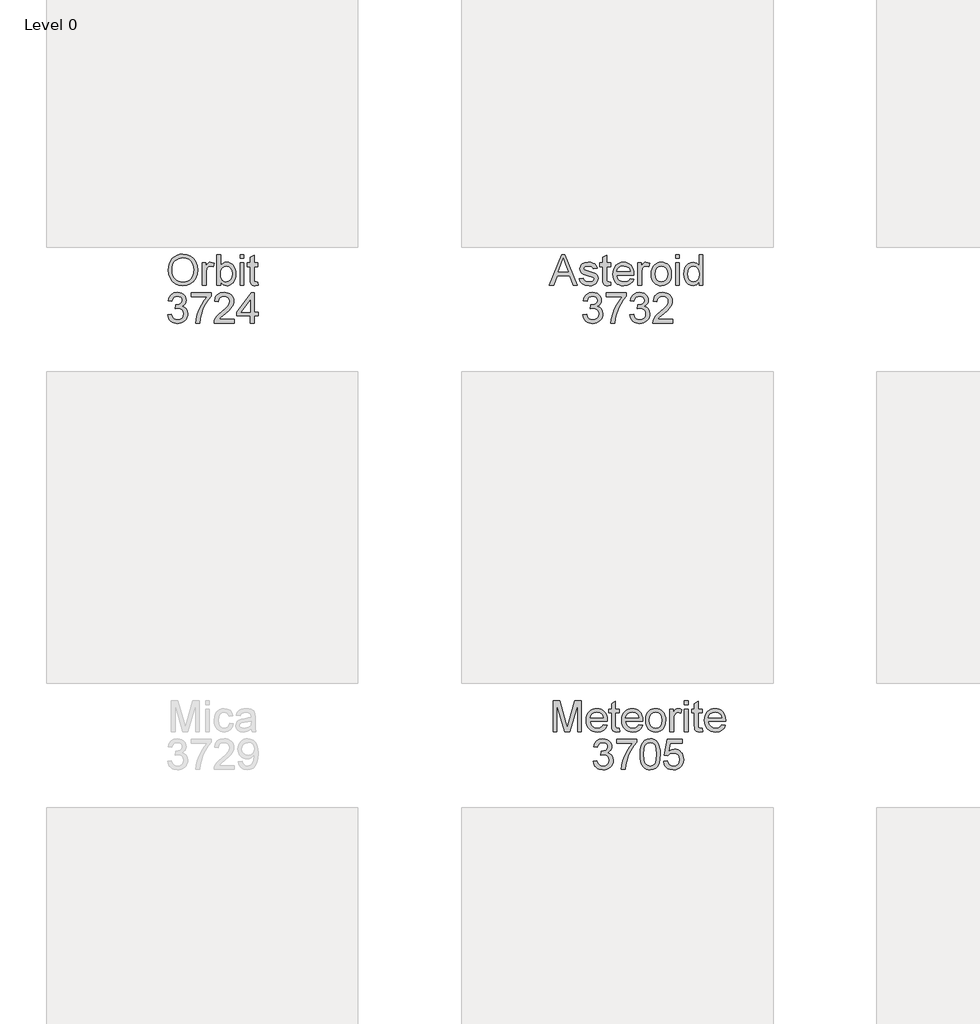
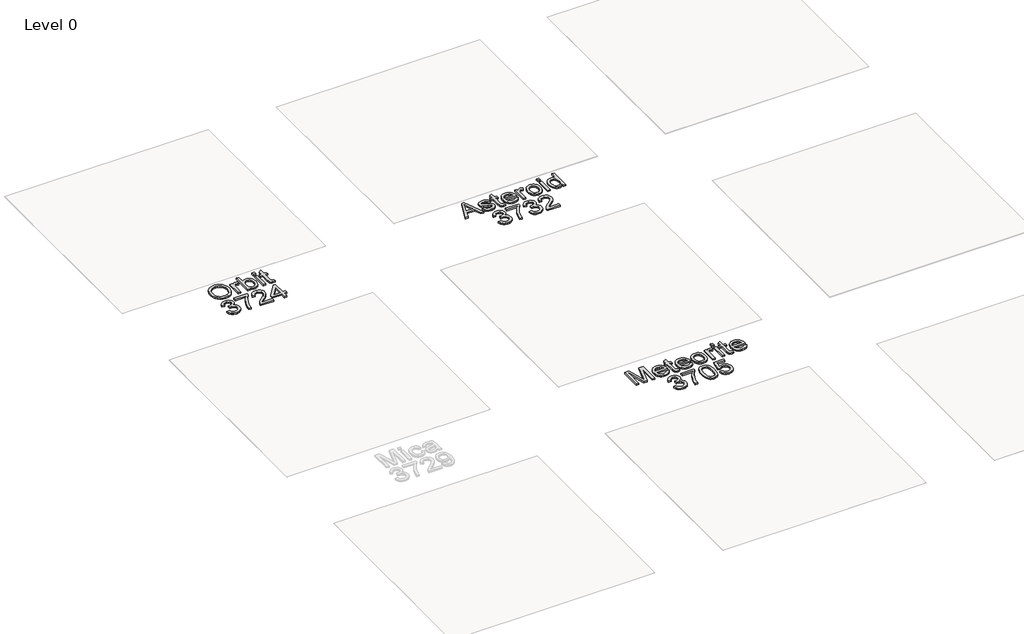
# One storey, part 8 of 14: 3 proxies.
"""IFC4 building model written with IfcOpenShell, lengths in millimetres."""

from ifc_helpers import new_model, si_unit, origin, origin_with_axes, place, context, project, spatial, polyline, outline, extrude, element, save

model = new_model("IFC4")

# Units and contexts
model_context = context("Model", 3, world=origin())
ifc_project = project(units=[si_unit("LENGTHUNIT", "METRE", prefix="MILLI")], contexts=[model_context])

# Site, building, storey
site = spatial("IfcSite", under=ifc_project)
building = spatial("IfcBuilding", under=site)
storey = spatial("IfcBuildingStorey", under=building, Name="Level 0", Elevation=0.0)

# Proxies
placement = place(None, origin())
element("IfcBuildingElementProxy", 1, Name="300mm Arial", ObjectType="300mm Arial", at=placement, inside=storey, context=model_context, shape_type="SweptSolid", body=[
    extrude(outline(polyline([(-279.2675725, -10593.3749409), (-276.806635, -10558.7280058), (-269.4238225, -10528.0564313), (-257.119135, -10501.3602174), (-239.8925725, -10478.639364), (-218.7762864, -10460.4978376), (-194.8024283, -10447.5396044), (-167.970998, -10439.7646645), (-138.2819956, -10437.1730179), (-99.5380052, -10442.0408063), (-64.7964187, -10456.6441717), (-35.9502648, -10479.9554698), (-14.8925725, -10510.9470563), (-2.0199764, -10548.1225371), (2.270889, -10589.9855179), (-2.2453369, -10632.4073929), (-15.7940148, -10670.1057102), (-37.6269475, -10701.1513832), (-66.9959379, -10723.6153255), (-101.4400485, -10737.2451332), (-138.4983417, -10741.7884025), (-177.837284, -10736.7673688), (-212.7771879, -10721.7042679), (-241.5512264, -10697.9602775), (-262.3925725, -10666.8965755), (-275.0488225, -10631.154388), (-279.2675725, -10593.3749409)]), holes=[polyline([(-242.3444956, -10593.7355179), (-240.4987925, -10618.2141837), (-234.9616831, -10639.9434505), (-225.7331675, -10658.9233183), (-212.8132456, -10675.1537871), (-197.107867, -10688.1525852), (-179.5229812, -10697.4374409), (-160.0585881, -10703.0083544), (-138.7146879, -10704.8653255), (-117.0057035, -10702.9903255), (-97.3114427, -10697.3653255), (-79.6319054, -10687.9903255), (-63.9670917, -10674.8653255), (-51.1418213, -10658.2923087), (-41.9809139, -10638.5732582), (-36.4843694, -10615.7081741), (-34.6521879, -10589.6970563), (-37.7892071, -10557.0107582), (-47.2002648, -10528.7595563), (-62.6419715, -10505.65559), (-83.8709379, -10488.4109986), (-109.4809139, -10477.6748207), (-138.0656494, -10474.0960948), (-158.6681134, -10475.8201032), (-177.7831975, -10480.9921284), (-195.4109018, -10489.6121705), (-211.5512264, -10501.6802294), (-225.0232816, -10517.7777354), (-234.6461783, -10538.4861188), (-240.4199163, -10563.8053796), (-242.3444956, -10593.7355179)])]), origin_with_axes(), (0.0, 0.0, 1.0), 20.0),
    extrude(outline(polyline([(48.4247352, -10737.1730179), (48.4247352, -10520.2499409), (80.7324275, -10520.2499409), (80.7324275, -10552.3412871), (92.6675236, -10533.7355179), (103.6651198, -10522.7739794), (114.6987736, -10517.4194121), (126.7420429, -10515.6345563), (145.131466, -10518.483114), (163.8093506, -10527.0287871), (151.4776198, -10560.1297486), (138.4968506, -10554.4506621), (125.5160813, -10552.5576332), (114.4914419, -10554.3785467), (104.6386775, -10559.8412871), (96.6789419, -10568.5311909), (91.333389, -10580.0335948), (86.8442063, -10600.6585948), (85.3478121, -10623.1585948), (85.3478121, -10737.1730179), (48.4247352, -10737.1730179)])), origin_with_axes(), (0.0, 0.0, 1.0), 20.0),
    extrude(outline(polyline([(223.8093506, -10737.1730179), (186.8862736, -10737.1730179), (186.8862736, -10441.7884025), (223.8093506, -10441.7884025), (223.8093506, -10551.3316717), (235.9517785, -10535.7141837), (249.662716, -10524.5588352), (264.9421631, -10517.865626), (281.7901198, -10515.6345563), (300.8105525, -10517.6447727), (318.7853121, -10523.6754217), (334.6867544, -10533.3478977), (347.4872352, -10546.2835948), (357.5202881, -10562.3563111), (365.1194467, -10581.4398448), (369.9061054, -10602.7409265), (371.5016583, -10625.4662871), (369.8497652, -10651.6892438), (364.8940861, -10674.7571525), (356.634621, -10694.670013), (345.0713698, -10711.4278255), (331.1914119, -10724.7105779), (315.9818265, -10734.1982582), (299.4426138, -10739.8908664), (281.5737736, -10741.7884025), (264.1714299, -10739.3409866), (248.7432448, -10731.998739), (235.2892184, -10719.7616597), (223.8093506, -10702.6297486), (223.8093506, -10737.1730179)]), holes=[polyline([(223.8093506, -10627.1970563), (226.333389, -10657.9903255), (233.9055044, -10678.8316717), (242.8523193, -10690.2213953), (253.2504563, -10698.3569121), (265.0999155, -10703.2382222), (278.4006967, -10704.8653255), (299.7107929, -10700.0696525), (317.9199275, -10685.6826332), (330.4139179, -10661.7944121), (334.5785813, -10628.4951332), (330.5851919, -10594.7090755), (318.6050236, -10571.0912871), (300.9637977, -10557.1910467), (279.9872352, -10552.5576332), (258.677139, -10557.3533063), (240.4680044, -10571.7403255), (227.974014, -10595.1958544), (223.8093506, -10627.1970563)])]), origin_with_axes(), (0.0, 0.0, 1.0), 20.0),
    extrude(outline(polyline([(413.0401198, -10478.7114794), (413.0401198, -10441.7884025), (449.9631967, -10441.7884025), (449.9631967, -10478.7114794), (413.0401198, -10478.7114794)])), origin_with_axes(), (0.0, 0.0, 1.0), 20.0),
    extrude(outline(polyline([(413.0401198, -10737.1730179), (413.0401198, -10520.2499409), (449.9631967, -10520.2499409), (449.9631967, -10737.1730179), (413.0401198, -10737.1730179)])), origin_with_axes(), (0.0, 0.0, 1.0), 20.0),
    extrude(outline(polyline([(583.8093506, -10706.3797486), (588.4247352, -10738.2547486), (560.8045429, -10741.7884025), (543.0821871, -10740.2559505), (529.8670429, -10735.6585948), (520.5281006, -10728.5732582), (514.4343506, -10719.576864), (511.0809852, -10704.1261429), (509.9631967, -10677.6778255), (509.9631967, -10557.1730179), (482.270889, -10557.1730179), (482.270889, -10520.2499409), (509.9631967, -10520.2499409), (509.9631967, -10467.5335948), (546.8862736, -10445.826864), (546.8862736, -10520.2499409), (583.8093506, -10520.2499409), (583.8093506, -10557.1730179), (546.8862736, -10557.1730179), (546.8862736, -10676.5960948), (548.833389, -10695.6345563), (555.1434852, -10702.3773448), (567.7276198, -10704.8653255), (583.8093506, -10706.3797486)])), origin_with_axes(), (0.0, 0.0, 1.0), 20.0),
    extrude(outline(polyline([(-286.1906494, -11023.326864), (-249.2675725, -11018.7114794), (-241.0013465, -11041.9146044), (-228.8949764, -11057.5816717), (-212.35351, -11066.5059505), (-190.7819956, -11069.4807102), (-165.4694956, -11065.3881621), (-145.9262264, -11053.1105179), (-133.432236, -11034.7932102), (-129.2675725, -11012.5816717), (-133.3961783, -10991.4969361), (-145.7819956, -10974.3965755), (-164.5319956, -10963.0654457), (-187.7531494, -10959.2884025), (-213.6425725, -10963.326864), (-209.5319956, -10926.4037871), (-203.618534, -10926.8364794), (-181.4971398, -10924.186239), (-161.7194956, -10916.2355179), (-147.7651687, -10902.7859986), (-143.1137264, -10883.639364), (-146.4851206, -10867.6928496), (-156.5993033, -10854.7571525), (-172.0319956, -10846.1844361), (-191.3589187, -10843.326864), (-210.7218994, -10846.2114794), (-226.5512264, -10854.8653255), (-238.1077167, -10869.2884025), (-244.6521879, -10889.4807102), (-281.5752648, -10884.8653255), (-270.7038706, -10851.7102775), (-251.3589187, -10826.9566717), (-224.8925725, -10811.5420082), (-192.6569956, -10806.4037871), (-169.4448562, -10808.93684), (-148.1257456, -10816.5359986), (-130.150986, -10828.5251813), (-116.9718994, -10844.2283063), (-108.8859619, -10862.3202534), (-106.1906494, -10881.4759025), (-108.7507456, -10899.3244602), (-116.431034, -10915.514364), (-129.1233417, -10929.3064313), (-146.7194956, -10939.9614794), (-123.6065148, -10949.3004217), (-106.479111, -10965.201864), (-95.8781494, -10986.8004217), (-92.3444956, -11013.2307102), (-94.1113225, -11031.9626813), (-99.4118033, -11049.2162871), (-108.2459379, -11064.9915275), (-120.6137264, -11079.2884025), (-135.6813345, -11091.1513832), (-152.6149283, -11099.6249409), (-171.4145076, -11104.7090755), (-192.0800725, -11106.4037871), (-227.7771879, -11100.6165275), (-243.1377648, -11093.3824529), (-256.8396879, -11083.2547486), (-268.3285701, -11070.8283664), (-277.0500244, -11056.6982582), (-286.1906494, -11023.326864)])), origin_with_axes(), (0.0, 0.0, 1.0), 20.0),
    extrude(outline(polyline([(-60.0368033, -10847.9422486), (-60.0368033, -10811.0191717), (133.8093506, -10811.0191717), (133.8093506, -10840.8749409), (106.1801438, -10875.841888), (78.8213698, -10920.3100371), (54.6897592, -10970.2228977), (36.7420429, -11021.5239794), (27.943966, -11059.9073929), (23.0401198, -11101.7884025), (-13.8829571, -11101.7884025), (-9.8895677, -11063.7295082), (0.7925236, -11018.4951332), (17.8748554, -10970.5474169), (41.068966, -10924.3484986), (68.1482929, -10882.5846765), (96.8862736, -10847.9422486), (-60.0368033, -10847.9422486)])), origin_with_axes(), (0.0, 0.0, 1.0), 20.0),
    extrude(outline(polyline([(355.3478121, -11064.8653255), (355.3478121, -11101.7884025), (161.5016583, -11101.7884025), (165.4680044, -11076.3316717), (174.5725717, -11056.43684), (187.895889, -11037.1369602), (207.1687256, -11016.935638), (234.1218506, -10994.3364794), (273.9656006, -10958.9458544), (297.8718506, -10932.8220563), (309.8249756, -10911.6201332), (313.8093506, -10890.9951332), (310.0503361, -10872.5065515), (298.7732929, -10857.1369602), (281.4385573, -10846.779388), (259.506466, -10843.326864), (236.474615, -10846.6982582), (218.5809852, -10856.8124409), (207.0335092, -10872.8761429), (203.0401198, -10894.0960948), (166.1170429, -10889.4807102), (175.068365, -10853.7655659), (183.4450176, -10839.5182703), (194.4223313, -10827.6778255), (207.7479023, -10818.3704337), (223.1693265, -10811.7222967), (260.2997352, -10806.4037871), (280.0886474, -10807.8821525), (297.7005765, -10812.3172486), (313.1355224, -10819.7090755), (326.3934852, -10830.0576332), (337.0417724, -10842.5966957), (344.6476919, -10856.5600371), (349.2112436, -10871.9476573), (350.7324275, -10888.7595563), (349.0918025, -10906.4188111), (344.1699275, -10923.7715755), (335.4349515, -10941.4218159), (322.3550236, -10959.9734986), (301.5046631, -10982.1219361), (269.458389, -11010.5624409), (226.9824275, -11046.0792679), (210.3237736, -11064.8653255), (355.3478121, -11064.8653255)])), origin_with_axes(), (0.0, 0.0, 1.0), 20.0),
    extrude(outline(polyline([(512.270889, -11101.7884025), (512.270889, -11032.5576332), (378.4247352, -11032.5576332), (378.4247352, -10995.6345563), (521.5016583, -10811.0191717), (549.193966, -10811.0191717), (549.193966, -10995.6345563), (586.1170429, -10995.6345563), (586.1170429, -11032.5576332), (549.193966, -11032.5576332), (549.193966, -11101.7884025), (512.270889, -11101.7884025)]), holes=[polyline([(512.270889, -10995.6345563), (512.270889, -10881.5480179), (423.8574275, -10995.6345563), (512.270889, -10995.6345563)])]), origin_with_axes(), (0.0, 0.0, 1.0), 20.0),
])
element("IfcBuildingElementProxy", 2, Name="300mm Arial", ObjectType="300mm Arial", at=placement, inside=storey, context=model_context, shape_type="SweptSolid", body=[
    extrude(outline(polyline([(3393.256466, -10737.1730179), (3511.1651198, -10441.7884025), (3542.6074275, -10441.7884025), (3660.5160813, -10737.1730179), (3621.5016583, -10737.1730179), (3587.6795429, -10644.8653255), (3466.020889, -10644.8653255), (3432.270889, -10737.1730179), (3393.256466, -10737.1730179)]), holes=[polyline([(3479.5785813, -10607.9422486), (3574.193966, -10607.9422486), (3547.583389, -10535.3220563), (3526.8862736, -10478.7114794), (3508.4968506, -10528.9759025), (3479.5785813, -10607.9422486)])]), origin_with_axes(), (0.0, 0.0, 1.0), 20.0),
    extrude(outline(polyline([(3681.5016583, -10672.5576332), (3718.4247352, -10667.9422486), (3724.2480525, -10683.7355179), (3735.5160813, -10695.3460948), (3752.3009371, -10702.4855179), (3774.6747352, -10704.8653255), (3796.7781006, -10702.6838352), (3812.318966, -10696.139364), (3821.5136775, -10686.6561909), (3824.5785813, -10675.6585948), (3821.4956486, -10666.2475371), (3812.2468506, -10659.0720563), (3774.2420429, -10648.5432102), (3718.6410813, -10630.4783063), (3704.5695669, -10621.4007823), (3694.3742544, -10609.3845563), (3688.1813458, -10595.1958544), (3686.1170429, -10579.6009025), (3687.7756967, -10565.295013), (3692.7516583, -10552.0888832), (3700.5942063, -10540.5053496), (3710.8526198, -10531.0672486), (3734.3261775, -10520.1417679), (3766.0930044, -10515.6345563), (3790.1254563, -10517.4464554), (3811.020889, -10522.8821525), (3827.8237736, -10531.4097967), (3839.5785813, -10542.4975371), (3847.3670429, -10556.9656861), (3852.270889, -10575.6345563), (3815.3478121, -10580.2499409), (3810.6873554, -10568.6303496), (3801.4656006, -10559.8773448), (3787.5924035, -10554.3875611), (3768.9776198, -10552.5576332), (3747.7756967, -10554.3064313), (3733.6410813, -10559.5528255), (3725.6903602, -10567.1249409), (3723.0401198, -10575.8509025), (3727.4391583, -10586.5960948), (3741.2131967, -10594.7451332), (3773.0160813, -10602.6057102), (3827.2107929, -10619.9855179), (3841.5256967, -10628.2968159), (3852.3790621, -10639.6730179), (3859.2210092, -10654.1501813), (3861.5016583, -10671.764364), (3858.8243746, -10689.9734986), (3850.7925236, -10707.1009025), (3837.7125958, -10721.8034265), (3819.8910813, -10732.7379217), (3798.364639, -10739.5257823), (3774.1699275, -10741.7884025), (3736.9403602, -10737.4254217), (3709.770889, -10724.3364794), (3691.6338698, -10702.6658063), (3681.5016583, -10672.5576332)])), origin_with_axes(), (0.0, 0.0, 1.0), 20.0),
    extrude(outline(polyline([(3981.5016583, -10706.3797486), (3986.1170429, -10738.2547486), (3958.4968506, -10741.7884025), (3940.7744948, -10740.2559505), (3927.5593506, -10735.6585948), (3918.2204083, -10728.5732582), (3912.1266583, -10719.576864), (3908.7732929, -10704.1261429), (3907.6555044, -10677.6778255), (3907.6555044, -10557.1730179), (3879.9631967, -10557.1730179), (3879.9631967, -10520.2499409), (3907.6555044, -10520.2499409), (3907.6555044, -10467.5335948), (3944.5785813, -10445.826864), (3944.5785813, -10520.2499409), (3981.5016583, -10520.2499409), (3981.5016583, -10557.1730179), (3944.5785813, -10557.1730179), (3944.5785813, -10676.5960948), (3946.5256967, -10695.6345563), (3952.8357929, -10702.3773448), (3965.4199275, -10704.8653255), (3981.5016583, -10706.3797486)])), origin_with_axes(), (0.0, 0.0, 1.0), 20.0),
    extrude(outline(polyline([(4170.2997352, -10672.5576332), (4206.5016583, -10677.1730179), (4193.4577881, -10704.4506621), (4172.6434852, -10724.8412871), (4144.5274996, -10737.5516236), (4109.5785813, -10741.7884025), (4086.6684251, -10739.9607282), (4066.255264, -10734.4777054), (4048.3390982, -10725.339334), (4032.9199275, -10712.545614), (4020.5205886, -10696.4526152), (4011.6639179, -10677.4164073), (4006.3499155, -10655.4369902), (4004.5785813, -10630.514364), (4006.3679443, -10604.7466356), (4011.7360333, -10582.0347967), (4020.6828482, -10562.3788472), (4033.208389, -10545.7787871), (4048.5869948, -10532.5906861), (4066.0930044, -10523.170614), (4085.7264179, -10517.5185707), (4107.4872352, -10515.6345563), (4128.5471811, -10517.5140635), (4147.5924035, -10523.1525852), (4164.6229023, -10532.5501212), (4179.6386775, -10545.7066717), (4191.8960393, -10562.2706741), (4200.6512977, -10581.8905659), (4205.9044527, -10604.5663472), (4207.6555044, -10630.2980179), (4207.4391583, -10640.2499409), (4041.5016583, -10640.2499409), (4047.8928842, -10667.8881621), (4062.739639, -10688.2066717), (4084.1669227, -10700.7006621), (4110.2997352, -10704.8653255), (4129.9511775, -10702.936239), (4146.5016583, -10697.1489794), (4159.9511775, -10687.1429698), (4170.2997352, -10672.5576332)]), holes=[polyline([(4041.5016583, -10603.326864), (4170.7324275, -10603.326864), (4165.7384371, -10583.8196525), (4155.9487736, -10569.8653255), (4134.4223313, -10556.8845563), (4107.3430044, -10552.5576332), (4082.4541823, -10556.0101573), (4061.8742544, -10566.3677294), (4047.568365, -10582.5125611), (4041.5016583, -10603.326864)])]), origin_with_axes(), (0.0, 0.0, 1.0), 20.0),
    extrude(outline(polyline([(4244.5785813, -10737.1730179), (4244.5785813, -10520.2499409), (4276.8862736, -10520.2499409), (4276.8862736, -10552.3412871), (4288.8213698, -10533.7355179), (4299.818966, -10522.7739794), (4310.8526198, -10517.4194121), (4322.895889, -10515.6345563), (4341.2853121, -10518.483114), (4359.9631967, -10527.0287871), (4347.631466, -10560.1297486), (4334.6506967, -10554.4506621), (4321.6699275, -10552.5576332), (4310.6452881, -10554.3785467), (4300.7925236, -10559.8412871), (4292.8327881, -10568.5311909), (4287.4872352, -10580.0335948), (4282.9980525, -10600.6585948), (4281.5016583, -10623.1585948), (4281.5016583, -10737.1730179), (4244.5785813, -10737.1730179)])), origin_with_axes(), (0.0, 0.0, 1.0), 20.0),
    extrude(outline(polyline([(4373.8093506, -10628.7114794), (4375.8060453, -10600.6180299), (4381.7961294, -10576.4097967), (4391.779603, -10556.0867799), (4405.756466, -10539.6489794), (4419.8279804, -10529.1426693), (4435.3598313, -10521.6381621), (4452.3520188, -10517.1354578), (4470.8045429, -10515.6345563), (4491.1748854, -10517.4622306), (4509.5936054, -10522.9452534), (4526.0607027, -10532.0836248), (4540.5761775, -10544.8773448), (4552.423383, -10560.893721), (4560.8856727, -10579.7000611), (4565.9630465, -10601.2963652), (4567.6555044, -10625.6826332), (4564.662716, -10662.9843159), (4555.6843506, -10691.3797486), (4540.9818265, -10712.6447727), (4520.8165621, -10728.5552294), (4496.86524, -10738.4801092), (4470.8045429, -10741.7884025), (4450.1367244, -10739.967489), (4431.5467304, -10734.5047486), (4415.0345609, -10725.4001813), (4400.600216, -10712.6537871), (4388.8792123, -10696.4819121), (4380.5070669, -10677.1009025), (4375.4837797, -10654.5107582), (4373.8093506, -10628.7114794)]), holes=[polyline([(4410.7324275, -10628.639364), (4415.005264, -10662.0558304), (4427.8237736, -10685.8629217), (4447.114639, -10700.1147246), (4470.8045429, -10704.8653255), (4494.3862736, -10700.0876813), (4513.6410813, -10685.7547486), (4526.459591, -10661.6321525), (4530.7324275, -10627.4855179), (4526.4325477, -10595.0426092), (4513.5329083, -10571.5600371), (4494.2510573, -10557.3082342), (4470.8045429, -10552.5576332), (4447.114639, -10557.2902054), (4427.8237736, -10571.4879217), (4415.005264, -10595.2409265), (4410.7324275, -10628.639364)])]), origin_with_axes(), (0.0, 0.0, 1.0), 20.0),
    extrude(outline(polyline([(4609.193966, -10737.1730179), (4609.193966, -10520.2499409), (4646.1170429, -10520.2499409), (4646.1170429, -10737.1730179), (4609.193966, -10737.1730179)])), origin_with_axes(), (0.0, 0.0, 1.0), 20.0),
    extrude(outline(polyline([(4609.193966, -10478.7114794), (4609.193966, -10441.7884025), (4646.1170429, -10441.7884025), (4646.1170429, -10478.7114794), (4609.193966, -10478.7114794)])), origin_with_axes(), (0.0, 0.0, 1.0), 20.0),
    extrude(outline(polyline([(4835.3478121, -10737.1730179), (4835.3478121, -10702.3412871), (4824.3006366, -10719.5994001), (4810.9187256, -10731.9266236), (4795.2020789, -10739.3229578), (4777.1506967, -10741.7884025), (4753.2805044, -10738.2186909), (4731.4295429, -10727.5095563), (4712.9319467, -10710.4091957), (4699.1218506, -10687.6658063), (4690.522091, -10660.1988592), (4687.6555044, -10628.9278255), (4690.2967304, -10598.0444121), (4698.2204083, -10570.1537871), (4711.4175236, -10546.842489), (4729.8790621, -10529.6970563), (4752.2077881, -10519.1501813), (4777.006466, -10515.6345563), (4795.0713698, -10518.1495804), (4811.0449275, -10525.6946525), (4824.584591, -10537.2601573), (4835.3478121, -10551.8364794), (4835.3478121, -10441.7884025), (4872.270889, -10441.7884025), (4872.270889, -10737.1730179), (4835.3478121, -10737.1730179)]), holes=[polyline([(4724.5785813, -10628.7835948), (4728.7432448, -10662.1820323), (4741.2372352, -10685.9350371), (4759.3922833, -10700.1327534), (4780.5401198, -10704.8653255), (4801.6789419, -10700.3490996), (4819.3742544, -10686.8004217), (4831.3544227, -10663.966888), (4835.3478121, -10631.5960948), (4831.2823073, -10596.2054698), (4819.0857929, -10571.6682102), (4800.9397592, -10557.3352775), (4779.0256967, -10552.5576332), (4757.661514, -10557.1459746), (4740.1555044, -10570.9109986), (4728.4728121, -10594.5558304), (4724.5785813, -10628.7835948)])]), origin_with_axes(), (0.0, 0.0, 1.0), 20.0),
    extrude(outline(polyline([(3713.8093506, -11023.326864), (3750.7324275, -11018.7114794), (3758.9986535, -11041.9146044), (3771.1050236, -11057.5816717), (3787.64649, -11066.5059505), (3809.2180044, -11069.4807102), (3834.5305044, -11065.3881621), (3854.0737736, -11053.1105179), (3866.567764, -11034.7932102), (3870.7324275, -11012.5816717), (3866.6038217, -10991.4969361), (3854.2180044, -10974.3965755), (3835.4680044, -10963.0654457), (3812.2468506, -10959.2884025), (3786.3574275, -10963.326864), (3790.4680044, -10926.4037871), (3796.381466, -10926.8364794), (3818.5028602, -10924.186239), (3838.2805044, -10916.2355179), (3852.2348313, -10902.7859986), (3856.8862736, -10883.639364), (3853.5148794, -10867.6928496), (3843.4006967, -10854.7571525), (3827.9680044, -10846.1844361), (3808.6410813, -10843.326864), (3789.2781006, -10846.2114794), (3773.4487736, -10854.8653255), (3761.8922833, -10869.2884025), (3755.3478121, -10889.4807102), (3718.4247352, -10884.8653255), (3729.2961294, -10851.7102775), (3748.6410813, -10826.9566717), (3775.1074275, -10811.5420082), (3807.3430044, -10806.4037871), (3830.5551438, -10808.93684), (3851.8742544, -10816.5359986), (3869.849014, -10828.5251813), (3883.0281006, -10844.2283063), (3891.1140381, -10862.3202534), (3893.8093506, -10881.4759025), (3891.2492544, -10899.3244602), (3883.568966, -10915.514364), (3870.8766583, -10929.3064313), (3853.2805044, -10939.9614794), (3876.3934852, -10949.3004217), (3893.520889, -10965.201864), (3904.1218506, -10986.8004217), (3907.6555044, -11013.2307102), (3905.8886775, -11031.9626813), (3900.5881967, -11049.2162871), (3891.7540621, -11064.9915275), (3879.3862736, -11079.2884025), (3864.3186655, -11091.1513832), (3847.3850717, -11099.6249409), (3828.5854924, -11104.7090755), (3807.9199275, -11106.4037871), (3772.2228121, -11100.6165275), (3756.8622352, -11093.3824529), (3743.1603121, -11083.2547486), (3731.6714299, -11070.8283664), (3722.9499756, -11056.6982582), (3713.8093506, -11023.326864)])), origin_with_axes(), (0.0, 0.0, 1.0), 20.0),
    extrude(outline(polyline([(3939.9631967, -10847.9422486), (3939.9631967, -10811.0191717), (4133.8093506, -10811.0191717), (4133.8093506, -10840.8749409), (4106.1801438, -10875.841888), (4078.8213698, -10920.3100371), (4054.6897592, -10970.2228977), (4036.7420429, -11021.5239794), (4027.943966, -11059.9073929), (4023.0401198, -11101.7884025), (3986.1170429, -11101.7884025), (3990.1104323, -11063.7295082), (4000.7925236, -11018.4951332), (4017.8748554, -10970.5474169), (4041.068966, -10924.3484986), (4068.1482929, -10882.5846765), (4096.8862736, -10847.9422486), (3939.9631967, -10847.9422486)])), origin_with_axes(), (0.0, 0.0, 1.0), 20.0),
    extrude(outline(polyline([(4166.1170429, -11023.326864), (4203.0401198, -11018.7114794), (4211.3063458, -11041.9146044), (4223.412716, -11057.5816717), (4239.9541823, -11066.5059505), (4261.5256967, -11069.4807102), (4286.8381967, -11065.3881621), (4306.381466, -11053.1105179), (4318.8754563, -11034.7932102), (4323.0401198, -11012.5816717), (4318.911514, -10991.4969361), (4306.5256967, -10974.3965755), (4287.7756967, -10963.0654457), (4264.5545429, -10959.2884025), (4238.6651198, -10963.326864), (4242.7756967, -10926.4037871), (4248.6891583, -10926.8364794), (4270.8105525, -10924.186239), (4290.5881967, -10916.2355179), (4304.5425236, -10902.7859986), (4309.193966, -10883.639364), (4305.8225717, -10867.6928496), (4295.708389, -10854.7571525), (4280.2756967, -10846.1844361), (4260.9487736, -10843.326864), (4241.5857929, -10846.2114794), (4225.756466, -10854.8653255), (4214.1999756, -10869.2884025), (4207.6555044, -10889.4807102), (4170.7324275, -10884.8653255), (4181.6038217, -10851.7102775), (4200.9487736, -10826.9566717), (4227.4151198, -10811.5420082), (4259.6506967, -10806.4037871), (4282.8628361, -10808.93684), (4304.1819467, -10816.5359986), (4322.1567063, -10828.5251813), (4335.3357929, -10844.2283063), (4343.4217304, -10862.3202534), (4346.1170429, -10881.4759025), (4343.5569467, -10899.3244602), (4335.8766583, -10915.514364), (4323.1843506, -10929.3064313), (4305.5881967, -10939.9614794), (4328.7011775, -10949.3004217), (4345.8285813, -10965.201864), (4356.4295429, -10986.8004217), (4359.9631967, -11013.2307102), (4358.1963698, -11031.9626813), (4352.895889, -11049.2162871), (4344.0617544, -11064.9915275), (4331.693966, -11079.2884025), (4316.6263578, -11091.1513832), (4299.692764, -11099.6249409), (4280.8931847, -11104.7090755), (4260.2276198, -11106.4037871), (4224.5305044, -11100.6165275), (4209.1699275, -11093.3824529), (4195.4680044, -11083.2547486), (4183.9791222, -11070.8283664), (4175.2576679, -11056.6982582), (4166.1170429, -11023.326864)])), origin_with_axes(), (0.0, 0.0, 1.0), 20.0),
    extrude(outline(polyline([(4581.5016583, -11064.8653255), (4581.5016583, -11101.7884025), (4387.6555044, -11101.7884025), (4391.6218506, -11076.3316717), (4400.7264179, -11056.43684), (4414.0497352, -11037.1369602), (4433.3225717, -11016.935638), (4460.2756967, -10994.3364794), (4500.1194467, -10958.9458544), (4524.0256967, -10932.8220563), (4535.9788217, -10911.6201332), (4539.9631967, -10890.9951332), (4536.2041823, -10872.5065515), (4524.927139, -10857.1369602), (4507.5924035, -10846.779388), (4485.6603121, -10843.326864), (4462.6284611, -10846.6982582), (4444.7348313, -10856.8124409), (4433.1873554, -10872.8761429), (4429.193966, -10894.0960948), (4392.270889, -10889.4807102), (4401.2222111, -10853.7655659), (4409.5988638, -10839.5182703), (4420.5761775, -10827.6778255), (4433.9017484, -10818.3704337), (4449.3231727, -10811.7222967), (4486.4535813, -10806.4037871), (4506.2424936, -10807.8821525), (4523.8544227, -10812.3172486), (4539.2893686, -10819.7090755), (4552.5473313, -10830.0576332), (4563.1956186, -10842.5966957), (4570.8015381, -10856.5600371), (4575.3650898, -10871.9476573), (4576.8862736, -10888.7595563), (4575.2456486, -10906.4188111), (4570.3237736, -10923.7715755), (4561.5887977, -10941.4218159), (4548.5088698, -10959.9734986), (4527.6585092, -10982.1219361), (4495.6122352, -11010.5624409), (4453.1362736, -11046.0792679), (4436.4776198, -11064.8653255), (4581.5016583, -11064.8653255)])), origin_with_axes(), (0.0, 0.0, 1.0), 20.0),
])
element("IfcBuildingElementProxy", 3, Name="300mm Arial", ObjectType="300mm Arial", at=placement, inside=storey, context=model_context, shape_type="SweptSolid", body=[
    extrude(outline(polyline([(3428.4247352, -15037.1730179), (3428.4247352, -14741.7884025), (3491.958389, -14741.7884025), (3552.3910813, -14949.9855179), (3564.5785813, -14993.4710948), (3577.7756967, -14946.3797486), (3637.1987736, -14741.7884025), (3700.7324275, -14741.7884025), (3700.7324275, -15037.1730179), (3663.8093506, -15037.1730179), (3663.8093506, -14778.7114794), (3589.6026198, -15037.1730179), (3539.5545429, -15037.1730179), (3465.3478121, -14778.7114794), (3465.3478121, -15037.1730179), (3428.4247352, -15037.1730179)])), origin_with_axes(), (0.0, 0.0, 1.0), 20.0),
    extrude(outline(polyline([(3912.6074275, -14972.5576332), (3948.8093506, -14977.1730179), (3935.7654804, -15004.4506621), (3914.9511775, -15024.8412871), (3886.8351919, -15037.5516236), (3851.8862736, -15041.7884025), (3828.9761174, -15039.9607282), (3808.5629563, -15034.4777054), (3790.6467905, -15025.339334), (3775.2276198, -15012.545614), (3762.8282809, -14996.4526152), (3753.9716102, -14977.4164073), (3748.6576078, -14955.4369902), (3746.8862736, -14930.514364), (3748.6756366, -14904.7466356), (3754.0437256, -14882.0347967), (3762.9905405, -14862.3788472), (3775.5160813, -14845.7787871), (3790.8946871, -14832.5906861), (3808.4006967, -14823.170614), (3828.0341102, -14817.5185707), (3849.7949275, -14815.6345563), (3870.8548734, -14817.5140635), (3889.9000958, -14823.1525852), (3906.9305946, -14832.5501212), (3921.9463698, -14845.7066717), (3934.2037316, -14862.2706741), (3942.95899, -14881.8905659), (3948.212145, -14904.5663472), (3949.9631967, -14930.2980179), (3949.7468506, -14940.2499409), (3783.8093506, -14940.2499409), (3790.2005765, -14967.8881621), (3805.0473313, -14988.2066717), (3826.474615, -15000.7006621), (3852.6074275, -15004.8653255), (3872.2588698, -15002.936239), (3888.8093506, -14997.1489794), (3902.2588698, -14987.1429698), (3912.6074275, -14972.5576332)]), holes=[polyline([(3783.8093506, -14903.326864), (3913.0401198, -14903.326864), (3908.0461294, -14883.8196525), (3898.256466, -14869.8653255), (3876.7300236, -14856.8845563), (3849.6506967, -14852.5576332), (3824.7618746, -14856.0101573), (3804.1819467, -14866.3677294), (3789.8760573, -14882.5125611), (3783.8093506, -14903.326864)])]), origin_with_axes(), (0.0, 0.0, 1.0), 20.0),
    extrude(outline(polyline([(4065.3478121, -15006.3797486), (4069.9631967, -15038.2547486), (4042.3430044, -15041.7884025), (4024.6206486, -15040.2559505), (4011.4055044, -15035.6585948), (4002.0665621, -15028.5732582), (3995.9728121, -15019.576864), (3992.6194467, -15004.1261429), (3991.5016583, -14977.6778255), (3991.5016583, -14857.1730179), (3963.8093506, -14857.1730179), (3963.8093506, -14820.2499409), (3991.5016583, -14820.2499409), (3991.5016583, -14767.5335948), (4028.4247352, -14745.826864), (4028.4247352, -14820.2499409), (4065.3478121, -14820.2499409), (4065.3478121, -14857.1730179), (4028.4247352, -14857.1730179), (4028.4247352, -14976.5960948), (4030.3718506, -14995.6345563), (4036.6819467, -15002.3773448), (4049.2660813, -15004.8653255), (4065.3478121, -15006.3797486)])), origin_with_axes(), (0.0, 0.0, 1.0), 20.0),
    extrude(outline(polyline([(4254.145889, -14972.5576332), (4290.3478121, -14977.1730179), (4277.3039419, -15004.4506621), (4256.489639, -15024.8412871), (4228.3736535, -15037.5516236), (4193.4247352, -15041.7884025), (4170.5145789, -15039.9607282), (4150.1014179, -15034.4777054), (4132.185252, -15025.339334), (4116.7660813, -15012.545614), (4104.3667424, -14996.4526152), (4095.5100717, -14977.4164073), (4090.1960693, -14955.4369902), (4088.4247352, -14930.514364), (4090.2140982, -14904.7466356), (4095.5821871, -14882.0347967), (4104.529002, -14862.3788472), (4117.0545429, -14845.7787871), (4132.4331486, -14832.5906861), (4149.9391583, -14823.170614), (4169.5725717, -14817.5185707), (4191.333389, -14815.6345563), (4212.3933349, -14817.5140635), (4231.4385573, -14823.1525852), (4248.4690561, -14832.5501212), (4263.4848313, -14845.7066717), (4275.7421931, -14862.2706741), (4284.4974515, -14881.8905659), (4289.7506066, -14904.5663472), (4291.5016583, -14930.2980179), (4291.2853121, -14940.2499409), (4125.3478121, -14940.2499409), (4131.7390381, -14967.8881621), (4146.5857929, -14988.2066717), (4168.0130765, -15000.7006621), (4194.145889, -15004.8653255), (4213.7973313, -15002.936239), (4230.3478121, -14997.1489794), (4243.7973313, -14987.1429698), (4254.145889, -14972.5576332)]), holes=[polyline([(4125.3478121, -14903.326864), (4254.5785813, -14903.326864), (4249.584591, -14883.8196525), (4239.7949275, -14869.8653255), (4218.2684852, -14856.8845563), (4191.1891583, -14852.5576332), (4166.3003361, -14856.0101573), (4145.7204083, -14866.3677294), (4131.4145188, -14882.5125611), (4125.3478121, -14903.326864)])]), origin_with_axes(), (0.0, 0.0, 1.0), 20.0),
    extrude(outline(polyline([(4319.193966, -14928.7114794), (4321.1906607, -14900.6180299), (4327.1807448, -14876.4097967), (4337.1642184, -14856.0867799), (4351.1410813, -14839.6489794), (4365.2125958, -14829.1426693), (4380.7444467, -14821.6381621), (4397.7366342, -14817.1354578), (4416.1891583, -14815.6345563), (4436.5595008, -14817.4622306), (4454.9782208, -14822.9452534), (4471.4453181, -14832.0836248), (4485.9607929, -14844.8773448), (4497.8079984, -14860.893721), (4506.2702881, -14879.7000611), (4511.3476619, -14901.2963652), (4513.0401198, -14925.6826332), (4510.0473313, -14962.9843159), (4501.068966, -14991.3797486), (4486.3664419, -15012.6447727), (4466.2011775, -15028.5552294), (4442.2498554, -15038.4801092), (4416.1891583, -15041.7884025), (4395.5213398, -15039.967489), (4376.9313458, -15034.5047486), (4360.4191763, -15025.4001813), (4345.9848313, -15012.6537871), (4334.2638277, -14996.4819121), (4325.8916823, -14977.1009025), (4320.868395, -14954.5107582), (4319.193966, -14928.7114794)]), holes=[polyline([(4356.1170429, -14928.639364), (4360.3898794, -14962.0558304), (4373.208389, -14985.8629217), (4392.4992544, -15000.1147246), (4416.1891583, -15004.8653255), (4439.770889, -15000.0876813), (4459.0256967, -14985.7547486), (4471.8442063, -14961.6321525), (4476.1170429, -14927.4855179), (4471.8171631, -14895.0426092), (4458.9175236, -14871.5600371), (4439.6356727, -14857.3082342), (4416.1891583, -14852.5576332), (4392.4992544, -14857.2902054), (4373.208389, -14871.4879217), (4360.3898794, -14895.2409265), (4356.1170429, -14928.639364)])]), origin_with_axes(), (0.0, 0.0, 1.0), 20.0),
    extrude(outline(polyline([(4554.5785813, -15037.1730179), (4554.5785813, -14820.2499409), (4586.8862736, -14820.2499409), (4586.8862736, -14852.3412871), (4598.8213698, -14833.7355179), (4609.818966, -14822.7739794), (4620.8526198, -14817.4194121), (4632.895889, -14815.6345563), (4651.2853121, -14818.483114), (4669.9631967, -14827.0287871), (4657.631466, -14860.1297486), (4644.6506967, -14854.4506621), (4631.6699275, -14852.5576332), (4620.6452881, -14854.3785467), (4610.7925236, -14859.8412871), (4602.8327881, -14868.5311909), (4597.4872352, -14880.0335948), (4592.9980525, -14900.6585948), (4591.5016583, -14923.1585948), (4591.5016583, -15037.1730179), (4554.5785813, -15037.1730179)])), origin_with_axes(), (0.0, 0.0, 1.0), 20.0),
    extrude(outline(polyline([(4693.0401198, -14778.7114794), (4693.0401198, -14741.7884025), (4729.9631967, -14741.7884025), (4729.9631967, -14778.7114794), (4693.0401198, -14778.7114794)])), origin_with_axes(), (0.0, 0.0, 1.0), 20.0),
    extrude(outline(polyline([(4693.0401198, -15037.1730179), (4693.0401198, -14820.2499409), (4729.9631967, -14820.2499409), (4729.9631967, -15037.1730179), (4693.0401198, -15037.1730179)])), origin_with_axes(), (0.0, 0.0, 1.0), 20.0),
    extrude(outline(polyline([(4863.8093506, -15006.3797486), (4868.4247352, -15038.2547486), (4840.8045429, -15041.7884025), (4823.0821871, -15040.2559505), (4809.8670429, -15035.6585948), (4800.5281006, -15028.5732582), (4794.4343506, -15019.576864), (4791.0809852, -15004.1261429), (4789.9631967, -14977.6778255), (4789.9631967, -14857.1730179), (4762.270889, -14857.1730179), (4762.270889, -14820.2499409), (4789.9631967, -14820.2499409), (4789.9631967, -14767.5335948), (4826.8862736, -14745.826864), (4826.8862736, -14820.2499409), (4863.8093506, -14820.2499409), (4863.8093506, -14857.1730179), (4826.8862736, -14857.1730179), (4826.8862736, -14976.5960948), (4828.833389, -14995.6345563), (4835.1434852, -15002.3773448), (4847.7276198, -15004.8653255), (4863.8093506, -15006.3797486)])), origin_with_axes(), (0.0, 0.0, 1.0), 20.0),
    extrude(outline(polyline([(5052.6074275, -14972.5576332), (5088.8093506, -14977.1730179), (5075.7654804, -15004.4506621), (5054.9511775, -15024.8412871), (5026.8351919, -15037.5516236), (4991.8862736, -15041.7884025), (4968.9761174, -15039.9607282), (4948.5629563, -15034.4777054), (4930.6467905, -15025.339334), (4915.2276198, -15012.545614), (4902.8282809, -14996.4526152), (4893.9716102, -14977.4164073), (4888.6576078, -14955.4369902), (4886.8862736, -14930.514364), (4888.6756366, -14904.7466356), (4894.0437256, -14882.0347967), (4902.9905405, -14862.3788472), (4915.5160813, -14845.7787871), (4930.8946871, -14832.5906861), (4948.4006967, -14823.170614), (4968.0341102, -14817.5185707), (4989.7949275, -14815.6345563), (5010.8548734, -14817.5140635), (5029.9000958, -14823.1525852), (5046.9305946, -14832.5501212), (5061.9463698, -14845.7066717), (5074.2037316, -14862.2706741), (5082.95899, -14881.8905659), (5088.212145, -14904.5663472), (5089.9631967, -14930.2980179), (5089.7468506, -14940.2499409), (4923.8093506, -14940.2499409), (4930.2005765, -14967.8881621), (4945.0473313, -14988.2066717), (4966.474615, -15000.7006621), (4992.6074275, -15004.8653255), (5012.2588698, -15002.936239), (5028.8093506, -14997.1489794), (5042.2588698, -14987.1429698), (5052.6074275, -14972.5576332)]), holes=[polyline([(4923.8093506, -14903.326864), (5053.0401198, -14903.326864), (5048.0461294, -14883.8196525), (5038.256466, -14869.8653255), (5016.7300236, -14856.8845563), (4989.6506967, -14852.5576332), (4964.7618746, -14856.0101573), (4944.1819467, -14866.3677294), (4929.8760573, -14882.5125611), (4923.8093506, -14903.326864)])]), origin_with_axes(), (0.0, 0.0, 1.0), 20.0),
    extrude(outline(polyline([(3813.8093506, -15323.326864), (3850.7324275, -15318.7114794), (3858.9986535, -15341.9146044), (3871.1050236, -15357.5816717), (3887.64649, -15366.5059505), (3909.2180044, -15369.4807102), (3934.5305044, -15365.3881621), (3954.0737736, -15353.1105179), (3966.567764, -15334.7932102), (3970.7324275, -15312.5816717), (3966.6038217, -15291.4969361), (3954.2180044, -15274.3965755), (3935.4680044, -15263.0654457), (3912.2468506, -15259.2884025), (3886.3574275, -15263.326864), (3890.4680044, -15226.4037871), (3896.381466, -15226.8364794), (3918.5028602, -15224.186239), (3938.2805044, -15216.2355179), (3952.2348313, -15202.7859986), (3956.8862736, -15183.639364), (3953.5148794, -15167.6928496), (3943.4006967, -15154.7571525), (3927.9680044, -15146.1844361), (3908.6410813, -15143.326864), (3889.2781006, -15146.2114794), (3873.4487736, -15154.8653255), (3861.8922833, -15169.2884025), (3855.3478121, -15189.4807102), (3818.4247352, -15184.8653255), (3829.2961294, -15151.7102775), (3848.6410813, -15126.9566717), (3875.1074275, -15111.5420082), (3907.3430044, -15106.4037871), (3930.5551438, -15108.93684), (3951.8742544, -15116.5359986), (3969.849014, -15128.5251813), (3983.0281006, -15144.2283063), (3991.1140381, -15162.3202534), (3993.8093506, -15181.4759025), (3991.2492544, -15199.3244602), (3983.568966, -15215.514364), (3970.8766583, -15229.3064313), (3953.2805044, -15239.9614794), (3976.3934852, -15249.3004217), (3993.520889, -15265.201864), (4004.1218506, -15286.8004217), (4007.6555044, -15313.2307102), (4005.8886775, -15331.9626813), (4000.5881967, -15349.2162871), (3991.7540621, -15364.9915275), (3979.3862736, -15379.2884025), (3964.3186655, -15391.1513832), (3947.3850717, -15399.6249409), (3928.5854924, -15404.7090755), (3907.9199275, -15406.4037871), (3872.2228121, -15400.6165275), (3856.8622352, -15393.3824529), (3843.1603121, -15383.2547486), (3831.6714299, -15370.8283664), (3822.9499756, -15356.6982582), (3813.8093506, -15323.326864)])), origin_with_axes(), (0.0, 0.0, 1.0), 20.0),
    extrude(outline(polyline([(4039.9631967, -15147.9422486), (4039.9631967, -15111.0191717), (4233.8093506, -15111.0191717), (4233.8093506, -15140.8749409), (4206.1801438, -15175.841888), (4178.8213698, -15220.3100371), (4154.6897592, -15270.2228977), (4136.7420429, -15321.5239794), (4127.943966, -15359.9073929), (4123.0401198, -15401.7884025), (4086.1170429, -15401.7884025), (4090.1104323, -15363.7295082), (4100.7925236, -15318.4951332), (4117.8748554, -15270.5474169), (4141.068966, -15224.3484986), (4168.1482929, -15182.5846765), (4196.8862736, -15147.9422486), (4039.9631967, -15147.9422486)])), origin_with_axes(), (0.0, 0.0, 1.0), 20.0),
    extrude(outline(polyline([(4266.1170429, -15256.4759025), (4268.8303842, -15209.1952534), (4276.9704083, -15171.4879217), (4290.4559852, -15142.7769842), (4309.2059852, -15122.4855179), (4333.3556246, -15110.4242198), (4363.0401198, -15106.4037871), (4385.7925236, -15108.7835948), (4406.1651198, -15115.9230179), (4423.2023794, -15127.5426092), (4435.9487736, -15143.3629217), (4445.5761775, -15163.248739), (4453.256466, -15187.0648448), (4458.286514, -15217.3082342), (4459.9631967, -15256.4759025), (4457.2768986, -15303.4861188), (4449.2180044, -15341.1033063), (4435.8135573, -15369.8412871), (4417.0906006, -15390.2138832), (4392.8868746, -15402.3563111), (4363.0401198, -15406.4037871), (4342.7035813, -15404.6459746), (4324.6747352, -15399.3725371), (4308.9535813, -15390.5834746), (4295.5401198, -15378.2787871), (4282.6675236, -15356.0356981), (4273.4728121, -15328.3208544), (4267.9559852, -15295.1342558), (4266.1170429, -15256.4759025)]), holes=[polyline([(4303.0401198, -15256.4037871), (4307.3670429, -15314.483715), (4312.7756967, -15334.3492498), (4320.3478121, -15348.0984986), (4339.6747352, -15364.1351573), (4363.0401198, -15369.4807102), (4386.4055044, -15364.1171284), (4405.7324275, -15348.0263832), (4413.3045429, -15334.2545984), (4418.7131967, -15314.3935707), (4423.0401198, -15256.4037871), (4418.8574275, -15199.6309505), (4413.6290621, -15179.8307703), (4406.3093506, -15165.7547486), (4387.0184852, -15148.9338352), (4362.6074275, -15143.326864), (4339.4944467, -15148.2667679), (4320.9247352, -15163.0864794), (4313.100216, -15178.4109986), (4307.5112736, -15199.0720563), (4303.0401198, -15256.4037871)])]), origin_with_axes(), (0.0, 0.0, 1.0), 20.0),
    extrude(outline(polyline([(4492.270889, -15323.326864), (4529.193966, -15318.7114794), (4535.9728121, -15340.8779457), (4547.7997352, -15356.7523448), (4564.6206486, -15366.2986188), (4586.381466, -15369.4807102), (4612.8478121, -15365.0546284), (4632.6795429, -15351.7763832), (4645.0653602, -15331.1784265), (4649.193966, -15304.7932102), (4645.3267785, -15279.9494602), (4633.725216, -15260.9470563), (4614.2991342, -15248.8857582), (4586.958389, -15244.8653255), (4569.0467304, -15246.4698929), (4554.5425236, -15251.2835948), (4533.8093506, -15267.9422486), (4496.8862736, -15263.326864), (4529.193966, -15111.0191717), (4672.270889, -15111.0191717), (4672.270889, -15147.9422486), (4559.0497352, -15147.9422486), (4543.256466, -15229.2884025), (4569.6326679, -15213.2787871), (4597.270889, -15207.9422486), (4615.2524095, -15209.5963953), (4631.7690861, -15214.5588352), (4646.8209191, -15222.8295683), (4660.4079083, -15234.4085948), (4671.6556547, -15248.5882823), (4679.6897592, -15264.6609986), (4684.510222, -15282.6267438), (4686.1170429, -15302.4855179), (4680.3297833, -15339.4085948), (4673.0957087, -15355.8689313), (4662.9680044, -15370.9951332), (4647.6254563, -15386.4864193), (4629.7228121, -15397.5516236), (4609.2600717, -15404.1907462), (4586.2372352, -15406.4037871), (4549.9722111, -15400.7156861), (4534.6048734, -15393.6055599), (4521.0809852, -15383.6513832), (4509.8287316, -15371.3489493), (4501.2762977, -15357.1940515), (4492.270889, -15323.326864)])), origin_with_axes(), (0.0, 0.0, 1.0), 20.0),
])

save(model, "model.ifc")
